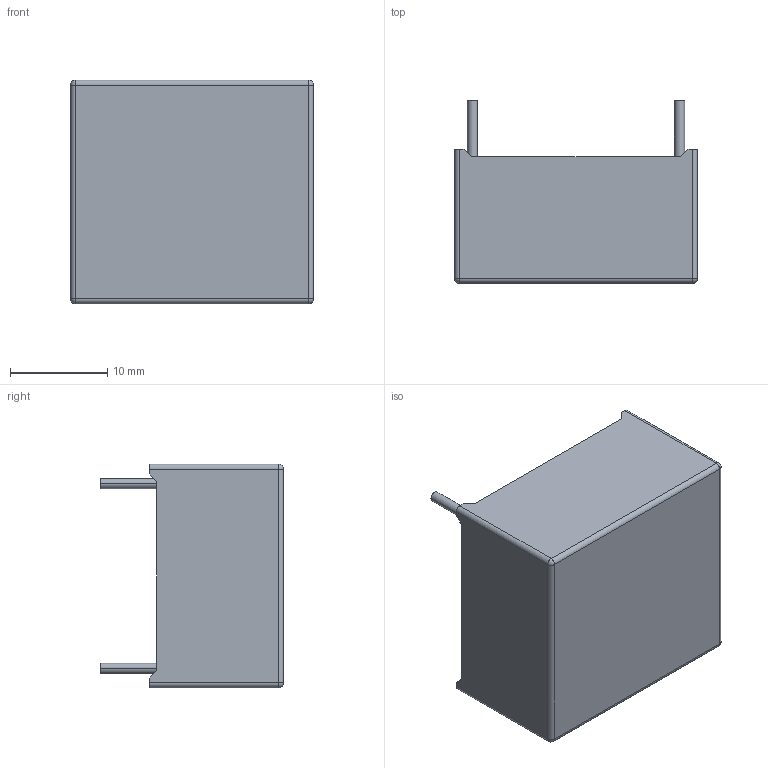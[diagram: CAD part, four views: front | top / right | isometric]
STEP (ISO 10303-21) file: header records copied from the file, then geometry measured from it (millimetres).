
FILE_DESCRIPTION((''),'2;1');
FILE_NAME('TFMOV20S621L-IT-5-001','2020-08-11T',('SET-01114'),(''),'PRO/ENGINEER BY PARAMETRIC TECHNOLOGY CORPORATION, 2012310','PRO/ENGINEER BY PARAMETRIC TECHNOLOGY CORPORATION, 2012310','');
FILE_SCHEMA(('CONFIG_CONTROL_DESIGN','SHAPE_APPEARANCE_LAYERS_GROUPS'));
Length unit declared in the file: millimetre
Products named in the file (1): TFMOV20S621L-IT-5-001
Bounding box: 25 x 18.8 x 23 mm (x, y, z)
Volume: 2187.6 mm3; surface area: 4353.7 mm2
Topology: 1 solids, 2 shells, 102 faces, 268 edges, 164 vertices
Faces by surface type: plane 58, cylinder 28, sphere 16
Entity records: 3116 total; most frequent: CARTESIAN_POINT 575, DIRECTION 528, ORIENTED_EDGE 504, EDGE_CURVE 252, AXIS2_PLACEMENT_3D 178, VECTOR 172, LINE 172, VERTEX_POINT 164
